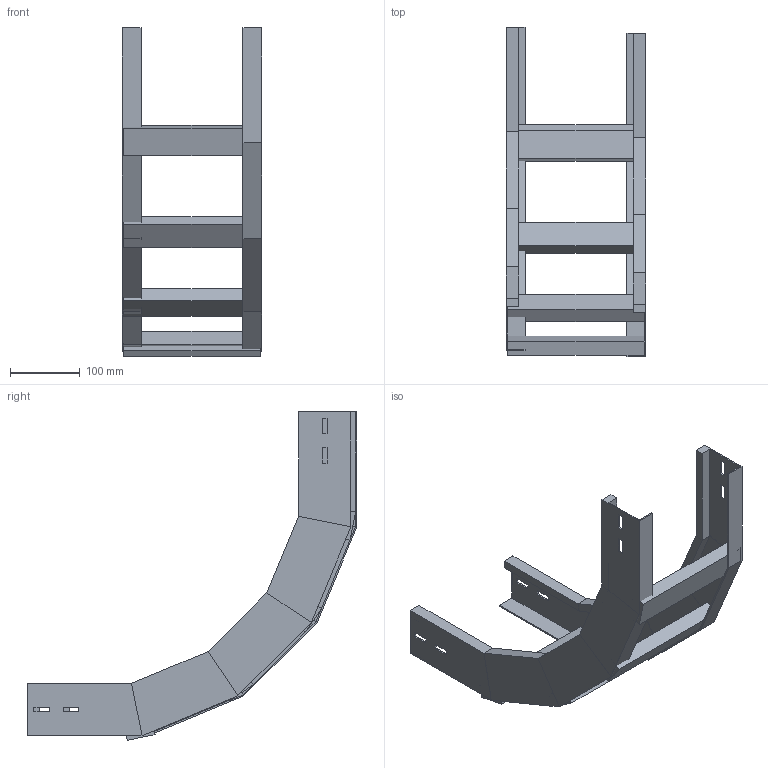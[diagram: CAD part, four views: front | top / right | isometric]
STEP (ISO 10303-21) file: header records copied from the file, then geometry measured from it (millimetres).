
FILE_DESCRIPTION (( 'STEP AP214' ), '1' );
FILE_NAME ('A2X30B3C200XX.step', '2025-04-02T08:39:36', ( '' ), ( '' ), 'SwSTEP 2.0', 'SolidWorks 2023', '' );
FILE_SCHEMA (( 'AUTOMOTIVE_DESIGN' ));
Length unit declared in the file: millimetre
Products named in the file (3): TRAVERSINO_200; LONGH.SALITA_90°_H75_R300; A2X30B3C200XX
Assembly tree (7 placements, depth 2):
  A2X30B3C200XX
    LONGH.SALITA_90°_H75_R300  x2
    TRAVERSINO_200  x5
Bounding box: 200 x 472.38 x 470.38 mm (x, y, z)
Volume: 1338711.7 mm3; surface area: 466946.2 mm2
Topology: 7 solids, 7 shells, 146 faces, 332 edges, 200 vertices
Faces by surface type: plane 146
Entity records: 1880 total; most frequent: CARTESIAN_POINT 310, ORIENTED_EDGE 296, DIRECTION 296, VECTOR 148, EDGE_CURVE 148, LINE 148, VERTEX_POINT 88, AXIS2_PLACEMENT_3D 74
